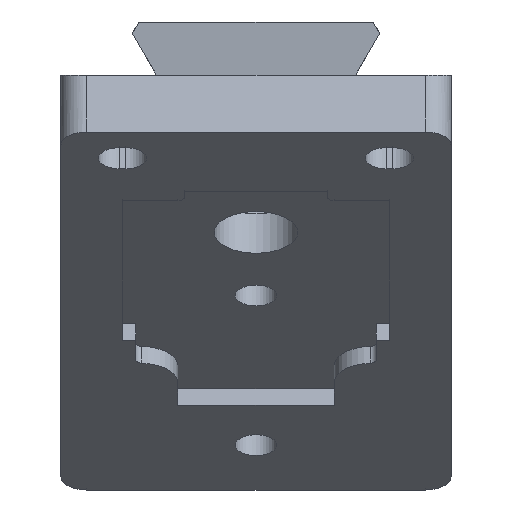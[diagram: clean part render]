
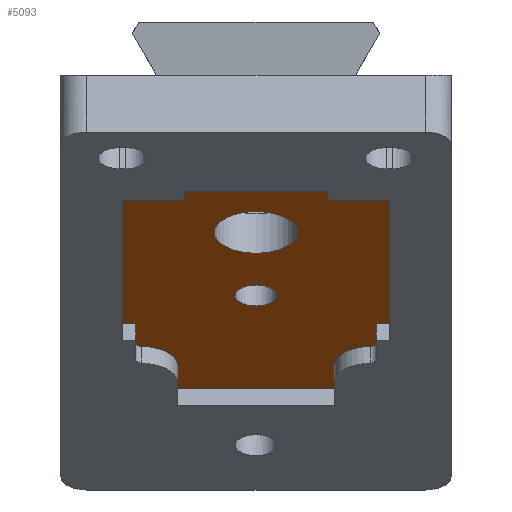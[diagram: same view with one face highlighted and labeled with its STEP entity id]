
A CAD part, left-side view. The second image highlights one B-rep face of the part: STEP entity #5093.
In plain terms, the highlighted planar face has unit normal (-0.5, 0, -0.866).
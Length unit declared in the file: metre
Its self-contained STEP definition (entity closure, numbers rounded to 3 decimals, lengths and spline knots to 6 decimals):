
#384=CIRCLE('',#5135,0.0016);
#386=CIRCLE('',#5138,0.0032);
#435=CIRCLE('',#5378,0.0005);
#436=CIRCLE('',#5379,0.003);
#437=CIRCLE('',#5380,0.003);
#438=CIRCLE('',#5381,0.0005);
#439=CIRCLE('',#5382,0.0005);
#440=CIRCLE('',#5383,0.0005);
#1863=ORIENTED_EDGE('',*,*,#2645,.T.);
#1864=ORIENTED_EDGE('',*,*,#2659,.T.);
#1865=ORIENTED_EDGE('',*,*,#2660,.T.);
#1866=ORIENTED_EDGE('',*,*,#2646,.T.);
#1867=ORIENTED_EDGE('',*,*,#2650,.T.);
#1868=ORIENTED_EDGE('',*,*,#2652,.F.);
#1869=ORIENTED_EDGE('',*,*,#2661,.T.);
#1870=ORIENTED_EDGE('',*,*,#2662,.T.);
#1871=ORIENTED_EDGE('',*,*,#2653,.F.);
#1872=ORIENTED_EDGE('',*,*,#2657,.F.);
#1873=ORIENTED_EDGE('',*,*,#2658,.T.);
#1874=ORIENTED_EDGE('',*,*,#2628,.F.);
#1875=ORIENTED_EDGE('',*,*,#2663,.T.);
#1876=ORIENTED_EDGE('',*,*,#2630,.T.);
#1877=ORIENTED_EDGE('',*,*,#2634,.T.);
#1878=ORIENTED_EDGE('',*,*,#2636,.F.);
#1879=ORIENTED_EDGE('',*,*,#2664,.T.);
#1880=ORIENTED_EDGE('',*,*,#2637,.F.);
#1881=ORIENTED_EDGE('',*,*,#2641,.F.);
#1882=ORIENTED_EDGE('',*,*,#2643,.F.);
#1883=ORIENTED_EDGE('',*,*,#1963,.F.);
#1884=ORIENTED_EDGE('',*,*,#1965,.F.);
#1963=EDGE_CURVE('',#2705,#2705,#384,.T.);
#1965=EDGE_CURVE('',#2707,#2707,#386,.T.);
#2628=EDGE_CURVE('',#3146,#3147,#3584,.T.);
#2630=EDGE_CURVE('',#3148,#3149,#3586,.T.);
#2634=EDGE_CURVE('',#3149,#3150,#3590,.T.);
#2636=EDGE_CURVE('',#3151,#3150,#3592,.T.);
#2637=EDGE_CURVE('',#3152,#3153,#3593,.T.);
#2641=EDGE_CURVE('',#3154,#3152,#3597,.T.);
#2643=EDGE_CURVE('',#3155,#3154,#3599,.T.);
#2645=EDGE_CURVE('',#3155,#3156,#3601,.T.);
#2646=EDGE_CURVE('',#3157,#3158,#3602,.T.);
#2650=EDGE_CURVE('',#3158,#3159,#3606,.T.);
#2652=EDGE_CURVE('',#3160,#3159,#3608,.T.);
#2653=EDGE_CURVE('',#3161,#3162,#3609,.T.);
#2657=EDGE_CURVE('',#3163,#3161,#3613,.T.);
#2658=EDGE_CURVE('',#3163,#3147,#3614,.T.);
#2659=EDGE_CURVE('',#3156,#3164,#435,.T.);
#2660=EDGE_CURVE('',#3164,#3157,#436,.F.);
#2661=EDGE_CURVE('',#3160,#3165,#437,.F.);
#2662=EDGE_CURVE('',#3165,#3162,#438,.T.);
#2663=EDGE_CURVE('',#3146,#3148,#439,.F.);
#2664=EDGE_CURVE('',#3151,#3153,#440,.F.);
#2705=VERTEX_POINT('',#6481);
#2707=VERTEX_POINT('',#6486);
#3146=VERTEX_POINT('',#8890);
#3147=VERTEX_POINT('',#8892);
#3148=VERTEX_POINT('',#8896);
#3149=VERTEX_POINT('',#8897);
#3150=VERTEX_POINT('',#8902);
#3151=VERTEX_POINT('',#8906);
#3152=VERTEX_POINT('',#8910);
#3153=VERTEX_POINT('',#8911);
#3154=VERTEX_POINT('',#8916);
#3155=VERTEX_POINT('',#8920);
#3156=VERTEX_POINT('',#8924);
#3157=VERTEX_POINT('',#8928);
#3158=VERTEX_POINT('',#8929);
#3159=VERTEX_POINT('',#8934);
#3160=VERTEX_POINT('',#8938);
#3161=VERTEX_POINT('',#8942);
#3162=VERTEX_POINT('',#8943);
#3163=VERTEX_POINT('',#8948);
#3164=VERTEX_POINT('',#8954);
#3165=VERTEX_POINT('',#8957);
#3584=LINE('',#8891,#4035);
#3586=LINE('',#8895,#4037);
#3590=LINE('',#8903,#4041);
#3592=LINE('',#8907,#4043);
#3593=LINE('',#8909,#4044);
#3597=LINE('',#8917,#4048);
#3599=LINE('',#8921,#4050);
#3601=LINE('',#8925,#4052);
#3602=LINE('',#8927,#4053);
#3606=LINE('',#8935,#4057);
#3608=LINE('',#8939,#4059);
#3609=LINE('',#8941,#4060);
#3613=LINE('',#8949,#4064);
#3614=LINE('',#8951,#4065);
#4035=VECTOR('',#6308,1.);
#4037=VECTOR('',#6312,1.);
#4041=VECTOR('',#6318,1.);
#4043=VECTOR('',#6322,1.);
#4044=VECTOR('',#6325,1.);
#4048=VECTOR('',#6331,1.);
#4050=VECTOR('',#6335,1.);
#4052=VECTOR('',#6339,1.);
#4053=VECTOR('',#6342,1.);
#4057=VECTOR('',#6348,1.);
#4059=VECTOR('',#6352,1.);
#4060=VECTOR('',#6355,1.);
#4064=VECTOR('',#6361,1.);
#4065=VECTOR('',#6364,1.);
#4368=EDGE_LOOP('',(#1863,#1864,#1865,#1866,#1867,#1868,#1869,#1870,#1871,
#1872,#1873,#1874,#1875,#1876,#1877,#1878,#1879,#1880,#1881,#1882));
#4369=EDGE_LOOP('',(#1883));
#4370=EDGE_LOOP('',(#1884));
#4681=FACE_BOUND('',#4368,.T.);
#4682=FACE_BOUND('',#4369,.T.);
#4683=FACE_BOUND('',#4370,.T.);
#4829=PLANE('',#5377);
#5093=ADVANCED_FACE('',(#4681,#4682,#4683),#4829,.T.);
#5135=AXIS2_PLACEMENT_3D('',#6480,#5454,#5455);
#5138=AXIS2_PLACEMENT_3D('',#6485,#5460,#5461);
#5377=AXIS2_PLACEMENT_3D('',#8952,#6365,#6366);
#5378=AXIS2_PLACEMENT_3D('',#8953,#6367,#6368);
#5379=AXIS2_PLACEMENT_3D('',#8955,#6369,#6370);
#5380=AXIS2_PLACEMENT_3D('',#8956,#6371,#6372);
#5381=AXIS2_PLACEMENT_3D('',#8958,#6373,#6374);
#5382=AXIS2_PLACEMENT_3D('',#8959,#6375,#6376);
#5383=AXIS2_PLACEMENT_3D('',#8960,#6377,#6378);
#5454=DIRECTION('',(-0.5,0.,-0.866));
#5455=DIRECTION('',(-0.866,0.,0.5));
#5460=DIRECTION('',(-0.5,0.,-0.866));
#5461=DIRECTION('',(-0.866,0.,0.5));
#6308=DIRECTION('',(0.,-1.,0.));
#6312=DIRECTION('',(-0.866,0.,0.5));
#6318=DIRECTION('',(0.,1.,0.));
#6322=DIRECTION('',(-0.866,0.,0.5));
#6325=DIRECTION('',(0.,-1.,0.));
#6331=DIRECTION('',(-0.866,0.,0.5));
#6335=DIRECTION('',(0.,1.,0.));
#6339=DIRECTION('',(0.866,0.,-0.5));
#6342=DIRECTION('',(0.866,0.,-0.5));
#6348=DIRECTION('',(0.,-1.,0.));
#6352=DIRECTION('',(0.866,0.,-0.5));
#6355=DIRECTION('',(0.866,0.,-0.5));
#6361=DIRECTION('',(0.,1.,0.));
#6364=DIRECTION('',(-0.866,0.,0.5));
#6365=DIRECTION('',(-0.5,0.,-0.866));
#6366=DIRECTION('',(0.866,0.,-0.5));
#6367=DIRECTION('',(-0.5,0.,-0.866));
#6368=DIRECTION('',(-0.866,0.,0.5));
#6369=DIRECTION('',(-0.5,0.,-0.866));
#6370=DIRECTION('',(-0.866,0.,0.5));
#6371=DIRECTION('',(-0.5,0.,-0.866));
#6372=DIRECTION('',(-0.866,0.,0.5));
#6373=DIRECTION('',(-0.5,0.,-0.866));
#6374=DIRECTION('',(-0.866,0.,0.5));
#6375=DIRECTION('',(-0.5,0.,-0.866));
#6376=DIRECTION('',(-0.866,0.,0.5));
#6377=DIRECTION('',(-0.5,0.,-0.866));
#6378=DIRECTION('',(-0.866,0.,0.5));
#6480=CARTESIAN_POINT('',(0.022216,0.,-0.016921));
#6481=CARTESIAN_POINT('',(0.02083,0.,-0.016121));
#6485=CARTESIAN_POINT('',(0.013816,0.,-0.012071));
#6486=CARTESIAN_POINT('',(0.011044,0.,-0.010471));
#8890=CARTESIAN_POINT('',(0.00732,-0.006,-0.008321));
#8891=CARTESIAN_POINT('',(0.00732,-0.007875,-0.008321));
#8892=CARTESIAN_POINT('',(0.00732,-0.01025,-0.008321));
#8895=CARTESIAN_POINT('',(0.006714,-0.0055,-0.007971));
#8896=CARTESIAN_POINT('',(0.006887,-0.0055,-0.008071));
#8897=CARTESIAN_POINT('',(0.006108,-0.0055,-0.007621));
#8902=CARTESIAN_POINT('',(0.006108,0.0055,-0.007621));
#8903=CARTESIAN_POINT('',(0.006108,0.,-0.007621));
#8906=CARTESIAN_POINT('',(0.006887,0.0055,-0.008071));
#8907=CARTESIAN_POINT('',(0.006714,0.0055,-0.007971));
#8909=CARTESIAN_POINT('',(0.00732,0.007875,-0.008321));
#8910=CARTESIAN_POINT('',(0.00732,0.01025,-0.008321));
#8911=CARTESIAN_POINT('',(0.00732,0.006,-0.008321));
#8916=CARTESIAN_POINT('',(0.02594,0.01025,-0.019071));
#8917=CARTESIAN_POINT('',(0.01663,0.01025,-0.013696));
#8920=CARTESIAN_POINT('',(0.02594,0.00925,-0.019071));
#8921=CARTESIAN_POINT('',(0.02594,0.00975,-0.019071));
#8924=CARTESIAN_POINT('',(0.028546,0.00925,-0.020575));
#8925=CARTESIAN_POINT('',(0.027455,0.00925,-0.019946));
#8927=CARTESIAN_POINT('',(0.031786,0.006,-0.022446));
#8928=CARTESIAN_POINT('',(0.031569,0.006,-0.022321));
#8929=CARTESIAN_POINT('',(0.0346,0.006,-0.024071));
#8934=CARTESIAN_POINT('',(0.0346,-0.006,-0.024071));
#8935=CARTESIAN_POINT('',(0.0346,0.,-0.024071));
#8938=CARTESIAN_POINT('',(0.031569,-0.006,-0.022321));
#8939=CARTESIAN_POINT('',(0.031786,-0.006,-0.022446));
#8941=CARTESIAN_POINT('',(0.027455,-0.00925,-0.019946));
#8942=CARTESIAN_POINT('',(0.02594,-0.00925,-0.019071));
#8943=CARTESIAN_POINT('',(0.028546,-0.00925,-0.020575));
#8948=CARTESIAN_POINT('',(0.02594,-0.01025,-0.019071));
#8949=CARTESIAN_POINT('',(0.02594,-0.00975,-0.019071));
#8951=CARTESIAN_POINT('',(0.019878,-0.01025,-0.015571));
#8952=CARTESIAN_POINT('',(0.022043,0.,-0.016821));
#8953=CARTESIAN_POINT('',(0.028546,0.00875,-0.020575));
#8954=CARTESIAN_POINT('',(0.028978,0.008786,-0.020825));
#8955=CARTESIAN_POINT('',(0.031569,0.009,-0.022321));
#8956=CARTESIAN_POINT('',(0.031569,-0.009,-0.022321));
#8957=CARTESIAN_POINT('',(0.028978,-0.008786,-0.020825));
#8958=CARTESIAN_POINT('',(0.028546,-0.00875,-0.020575));
#8959=CARTESIAN_POINT('',(0.006887,-0.006,-0.008071));
#8960=CARTESIAN_POINT('',(0.006887,0.006,-0.008071));
